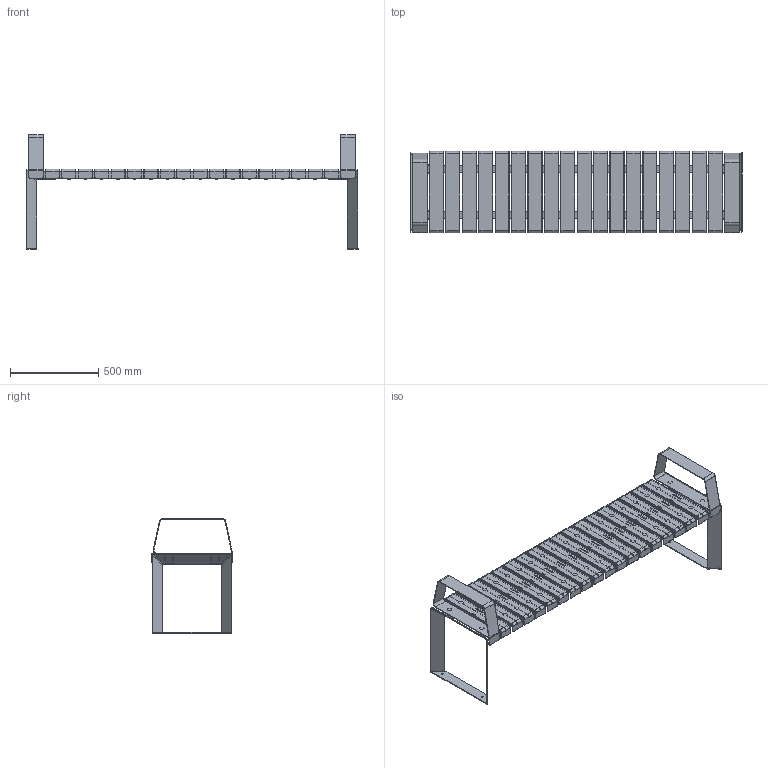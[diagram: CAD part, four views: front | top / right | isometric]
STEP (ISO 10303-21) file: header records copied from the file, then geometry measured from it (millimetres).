
FILE_DESCRIPTION(('STEP AP203'),'1');
FILE_NAME('UT80PL2001AXX + FIANCHI.stp','2025-11-11T13:34:27',(' '),(' '),'Spatial InterOp 3D',' ',' ');
FILE_SCHEMA(('CONFIG_CONTROL_DESIGN'));
Length unit declared in the file: millimetre
Products named in the file (1): UT80PL2001AXX + FIANCHI
Bounding box: 1880.16 x 460 x 648 mm (x, y, z)
Surface area: 3731247.1 mm2 (no closed solid volume)
Topology: 0 solids, 416 shells, 3563 faces, 15757 edges, 12371 vertices
Faces by surface type: plane 1430, cylinder 1330, torus 584, bspline 202, cone 12, extrusion 5
Full cylindrical faces by diameter (mm): 6.8 x8, 8 x4, 10 x4, 13 x8, 17.8 x44, 25 x4
Entity records: 197264 total; most frequent: CARTESIAN_POINT 75564, DIRECTION 23800, ORIENTED_EDGE 22005, EDGE_CURVE 15561, VERTEX_POINT 12355, VECTOR 9414, LINE 9409, AXIS2_PLACEMENT_3D 7193
